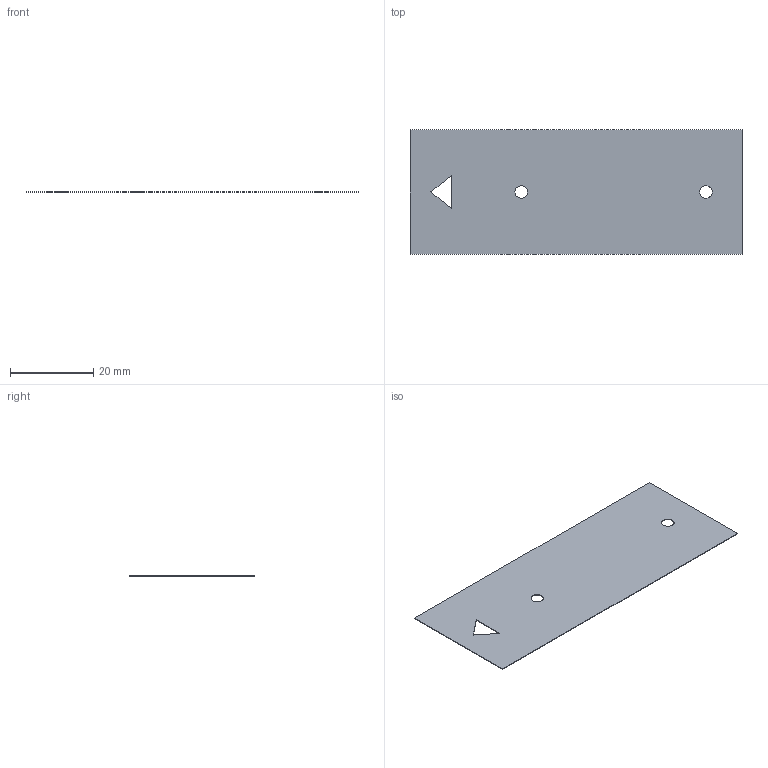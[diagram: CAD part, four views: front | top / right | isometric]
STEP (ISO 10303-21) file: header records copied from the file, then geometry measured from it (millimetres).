
FILE_DESCRIPTION (( 'STEP AP214' ), '1' );
FILE_NAME ('guide perçage.STEP', '2025-10-26T10:01:39', ( '' ), ( '' ), 'SwSTEP 2.0', 'SolidWorks 2025', '' );
FILE_SCHEMA (( 'AUTOMOTIVE_DESIGN' ));
Length unit declared in the file: millimetre
Products named in the file (1): guide perçage
Bounding box: 80 x 30 x 0.15 mm (x, y, z)
Volume: 354.9 mm3; surface area: 4770.7 mm2
Topology: 1 solids, 1 shells, 13 faces, 33 edges, 22 vertices
Faces by surface type: plane 9, cylinder 4
Entity records: 430 total; most frequent: DIRECTION 69, CARTESIAN_POINT 69, ORIENTED_EDGE 66, EDGE_CURVE 33, VECTOR 25, LINE 25, VERTEX_POINT 22, AXIS2_PLACEMENT_3D 22
